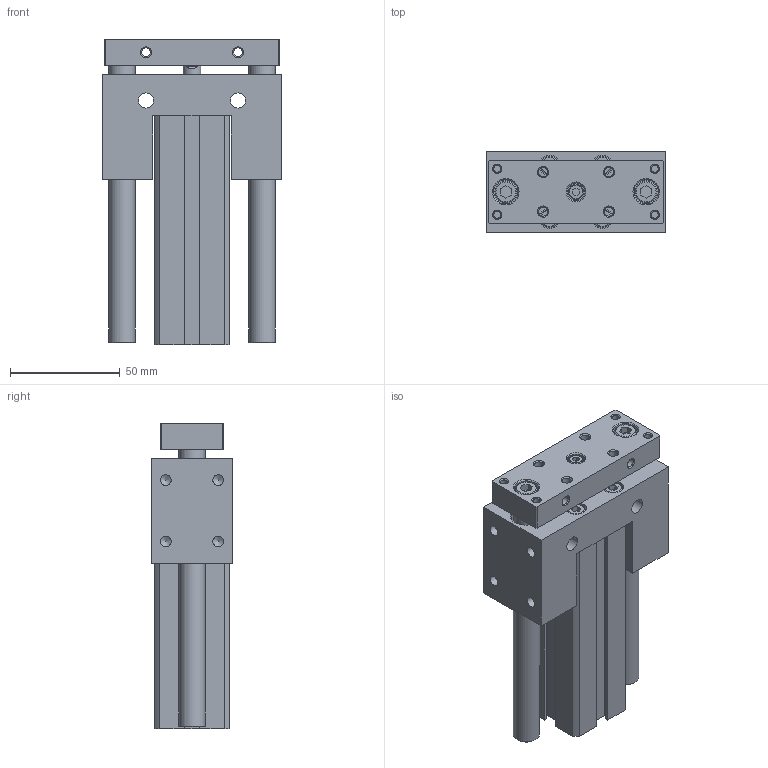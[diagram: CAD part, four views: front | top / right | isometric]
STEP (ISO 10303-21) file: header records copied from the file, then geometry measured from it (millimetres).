
FILE_DESCRIPTION((''),'2;1');
FILE_NAME('I:\3D電子目錄\氣缸\JCB\JCB\JCB20-S\JCB20x75-S.stp','2007-08-21T18:29:10',('Administrator'),(''),'Autodesk Inventor 11','Autodesk Inventor 11','');
FILE_SCHEMA(('AUTOMOTIVE_DESIGN { 1 0 10303 214 1 1 1 1 }'));
Length unit declared in the file: millimetre
Products named in the file (1): JCB20
Bounding box: 82 x 37 x 139.5 mm (x, y, z)
Volume: 238823.2 mm3; surface area: 74509.5 mm2
Topology: 5 solids, 5 shells, 293 faces, 643 edges, 415 vertices
Faces by surface type: plane 150, bspline 53, cylinder 45, cone 37, torus 8
Full cylindrical faces by diameter (mm): 1.5 x2, 4.3 x4, 4.917 x4, 7 x9, 8 x1, 8.5 x4, 9 x1, 10 x2, 12 x2, 13 x2, 14 x2, 22 x4, 23.2 x2
Entity records: 7875 total; most frequent: CARTESIAN_POINT 1985, DIRECTION 1184, ORIENTED_EDGE 992, EDGE_LOOP 504, EDGE_CURVE 496, AXIS2_PLACEMENT_3D 447, VERTEX_POINT 394, FACE_OUTER_BOUND 293
